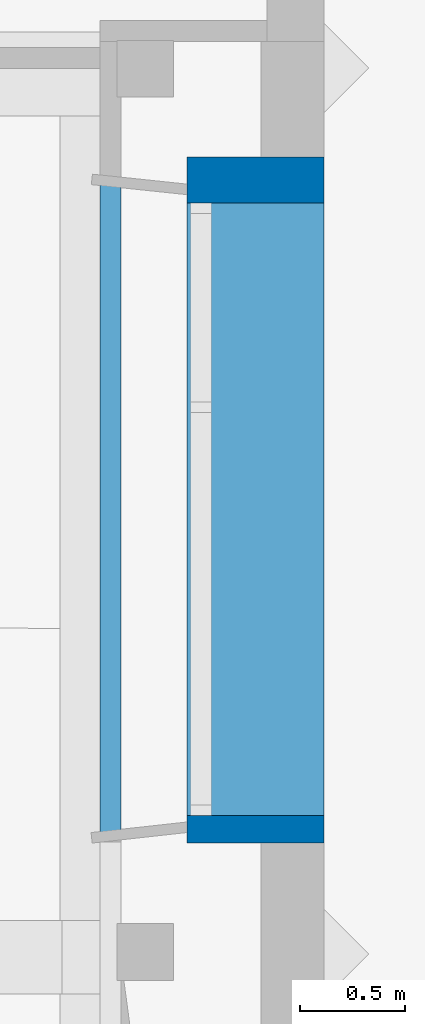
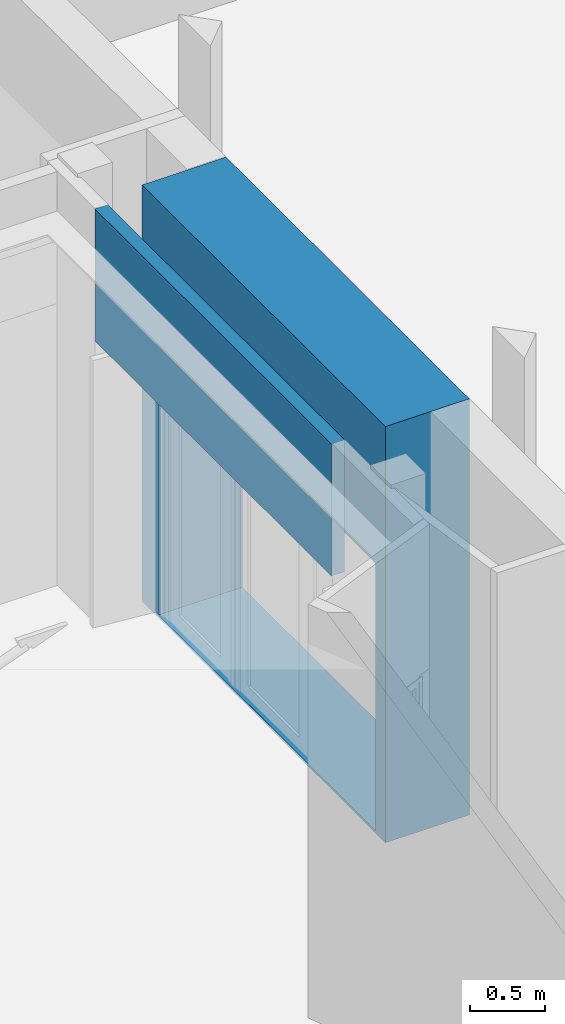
# One storey, part 37 of 65: 2 walls, 1 opening.
"""IFC4 building model written with IfcOpenShell, lengths in metres."""

import ifcopenshell
import ifcopenshell.guid

model = None  # the IFC model being written
_history = None  # IfcOwnerHistory: only IFC2X3 demands one
_inside = {}  # id of a spatial element -> (the spatial element, [elements in it])
_under = {}  # id of a project, library or spatial element -> (it, [spatial elements below it])
_declared = {}  # id of a project -> (the project, [libraries it declares])
_typed = {}  # id of a type object -> (the type object, [elements of that type])
_made_of = {}  # id of a material, layer set ... -> (it, [elements and type objects made of it])


def new_model(schema):
    """Start an empty IFC model of exactly this schema.

    Asked for "IFC4X3", IfcOpenShell would pick the latest addendum, in which some entities
    have other attributes; the version numbers below select the first issue.
    IFC2X3 requires an IfcOwnerHistory on every rooted entity: one is made here for all.
    """
    global model, _history
    if schema == "IFC4X3":
        model = ifcopenshell.file(schema_version=(4, 3, 0, 0))
    else:
        model = ifcopenshell.file(schema=schema)
    _inside.clear()
    _under.clear()
    _declared.clear()
    _typed.clear()
    _made_of.clear()
    _history = None
    if model.schema == "IFC2X3":
        org = make("IfcOrganization", Name="unknown")
        user = make(
            "IfcPersonAndOrganization",
            ThePerson=make("IfcPerson", FamilyName="unknown"),
            TheOrganization=org,
        )
        app = make(
            "IfcApplication",
            ApplicationDeveloper=org,
            Version="unknown",
            ApplicationFullName="unknown",
            ApplicationIdentifier="unknown",
        )
        _history = make(
            "IfcOwnerHistory",
            OwningUser=user,
            OwningApplication=app,
            ChangeAction="ADDED",
            CreationDate=0,
        )
    return model


def make(cls, **values):
    """One entity of the class cls with the attributes given. An attribute that is None is left unset."""
    return model.create_entity(
        cls, **{name: value for name, value in values.items() if value is not None}
    )


def entity(cls, *values):
    """Any entity or typed value of the class cls, its attributes in the order of the schema. None: left unset."""
    e = model.create_entity(cls)
    for i, value in enumerate(values):
        if value is not None:
            e[i] = value
    return e


def rooted(cls, **values):
    """An entity with a GlobalId (a new one), such as an element, a storey or a relation."""
    return make(cls, GlobalId=ifcopenshell.guid.new(), OwnerHistory=_history, **values)


def si_unit(unit_type, name, prefix=None):
    """IfcSIUnit, for example si_unit("LENGTHUNIT", "METRE", prefix="MILLI")."""
    return make("IfcSIUnit", UnitType=unit_type, Prefix=prefix, Name=name)


def converted_unit(unit_type, name, factor, base, dimensions=None, offset=None):
    """IfcConversionBasedUnit, such as the inch: factor (a typed value) times the base unit."""
    return make(
        "IfcConversionBasedUnit"
        if offset is None
        else "IfcConversionBasedUnitWithOffset",
        ConversionOffset=offset,
        Dimensions=None
        if dimensions is None
        else entity("IfcDimensionalExponents", *dimensions),
        UnitType=unit_type,
        Name=name,
        ConversionFactor=make(
            "IfcMeasureWithUnit", ValueComponent=factor, UnitComponent=base
        ),
    )


def derived_unit(unit_type, elements):
    """IfcDerivedUnit: a product of units, each with its exponent."""
    return make(
        "IfcDerivedUnit",
        Elements=[
            make("IfcDerivedUnitElement", Unit=unit, Exponent=power)
            for unit, power in elements
        ],
        UnitType=unit_type,
    )


def assignment(units):
    """IfcUnitAssignment: the units of a project."""
    return None if units is None else make("IfcUnitAssignment", Units=units)


def point(xyz):
    """IfcCartesianPoint."""
    return None if xyz is None else make("IfcCartesianPoint", Coordinates=xyz)


def direction(xyz):
    """IfcDirection."""
    return None if xyz is None else make("IfcDirection", DirectionRatios=xyz)


def frame(location, z_axis=None, x_axis=None):
    """IfcAxis2Placement3D, a coordinate frame: its origin and axes. An axis left out is left unset."""
    return make(
        "IfcAxis2Placement3D",
        Location=point(location),
        Axis=direction(z_axis),
        RefDirection=direction(x_axis),
    )


def origin():
    """The frame at (0, 0, 0) with its axes left unset."""
    return frame((0.0, 0.0, 0.0))


def place(relative_to, where):
    """IfcLocalPlacement: puts the frame where relative to a parent placement (None: the world)."""
    return make(
        "IfcLocalPlacement", PlacementRelTo=relative_to, RelativePlacement=where
    )


def context(
    kind, dimensions, precision=None, world=None, true_north=None, identifier=None
):
    """IfcGeometricRepresentationContext, for example the 3D "Model" context."""
    return make(
        "IfcGeometricRepresentationContext",
        ContextIdentifier=identifier,
        ContextType=kind,
        CoordinateSpaceDimension=dimensions,
        Precision=precision,
        WorldCoordinateSystem=world,
        TrueNorth=true_north,
    )


def subcontext(parent, identifier, kind, view, scale=None):
    """IfcGeometricRepresentationSubContext, for example "Body" below "Model"."""
    return make(
        "IfcGeometricRepresentationSubContext",
        ContextIdentifier=identifier,
        ContextType=kind,
        ParentContext=parent,
        TargetScale=scale,
        TargetView=view,
    )


def project(units=None, contexts=None):
    """IfcProject with its units and contexts."""
    return rooted(
        "IfcProject",
        Name="project",
        RepresentationContexts=contexts,
        UnitsInContext=assignment(units),
    )


def spatial(cls, under=None, at=None, **own):
    """A site, building, storey or space (cls), placed at a placement, below another one or the project."""
    s = rooted(cls, ObjectPlacement=at, **own)
    if under is not None:
        _under.setdefault(under.id(), (under, []))[1].append(s)
    return s


def point_list(points):
    """IfcCartesianPointList2D or 3D."""
    cls = (
        "IfcCartesianPointList2D" if len(points[0]) == 2 else "IfcCartesianPointList3D"
    )
    return make(cls, CoordList=points)


def indexed_curve(points, segments=None, self_intersect=None):
    """IfcIndexedPolyCurve: lines and arcs through numbered points (the first is 1)."""
    return make(
        "IfcIndexedPolyCurve",
        Points=point_list(points),
        Segments=segments,
        SelfIntersect=self_intersect,
    )


def outline(outer, holes=None, kind="AREA"):
    """IfcArbitraryClosedProfileDef: a profile drawn as a closed curve; with holes, ...WithVoids."""
    if holes is None:
        return make("IfcArbitraryClosedProfileDef", ProfileType=kind, OuterCurve=outer)
    return make(
        "IfcArbitraryProfileDefWithVoids",
        ProfileType=kind,
        OuterCurve=outer,
        InnerCurves=holes,
    )


def extrude(swept, where, along, depth):
    """IfcExtrudedAreaSolid: the profile swept, set in the frame where, extruded along a direction by depth."""
    return make(
        "IfcExtrudedAreaSolid",
        SweptArea=swept,
        Position=where,
        ExtrudedDirection=direction(along),
        Depth=depth,
    )


def polygons(points, faces, closed=None, point_numbers=None):
    """IfcPolygonalFaceSet: a face is its outer loop, then its inner loops; points numbered from 1."""
    made = []
    for loops in faces:
        if len(loops) == 1:
            made.append(make("IfcIndexedPolygonalFace", CoordIndex=loops[0]))
        else:
            made.append(
                make(
                    "IfcIndexedPolygonalFaceWithVoids",
                    CoordIndex=loops[0],
                    InnerCoordIndices=loops[1:],
                )
            )
    return make(
        "IfcPolygonalFaceSet",
        Coordinates=point_list(points),
        Closed=closed,
        Faces=made,
        PnIndex=point_numbers,
    )


def shape(context_of_items, identifier, shape_type, items):
    """IfcShapeRepresentation: the items that make up one representation, for example the "Body"."""
    return make(
        "IfcShapeRepresentation",
        ContextOfItems=context_of_items,
        RepresentationIdentifier=identifier,
        RepresentationType=shape_type,
        Items=items,
    )


def material(Name=None, Category=None):
    """IfcMaterial."""
    return make("IfcMaterial", Name=Name, Category=Category)


def layer(
    of_material, thickness, ventilated=None, Name=None, Category=None, Priority=None
):
    """IfcMaterialLayer: one layer of a wall or slab, of a material (None: an air gap)."""
    return make(
        "IfcMaterialLayer",
        Material=of_material,
        LayerThickness=thickness,
        IsVentilated=ventilated,
        Name=Name,
        Category=Category,
        Priority=Priority,
    )


def layer_set(layers, Name=None):
    """IfcMaterialLayerSet."""
    return make("IfcMaterialLayerSet", MaterialLayers=layers, LayerSetName=Name)


def made_of(thing, what):
    """Note that an element or type object is made of a material, layer set ...; save() writes the relation."""
    if what is not None:
        _made_of.setdefault(what.id(), (what, []))[1].append(thing)
    return thing


def type_object(cls, material=None, **own):
    """A type object (cls), such as IfcWallType, which elements share."""
    return made_of(rooted(cls, **own), material)


def element(
    cls,
    number,
    at=None,
    inside=None,
    cuts=None,
    type_object=None,
    material=None,
    context=None,
    identifier="Body",
    shape_type=None,
    held_by="IfcProductDefinitionShape",
    body=None,
    shapes=None,
    **own,
):
    """One element of the class cls, such as IfcWall. Its Tag is "e" and its number.

    at: its placement. inside: the storey or other place that contains it. cuts: it is an
    opening in that element (IfcRelVoidsElement). A single representation is given by context,
    identifier, shape_type and body (its items); several are given by shapes. held_by: the class
    of the entity that holds the representations. save() writes the other relations.
    """
    e = rooted(cls, Tag="e%d" % number, ObjectPlacement=at, **own)
    if body is not None:
        shapes = [shape(context, identifier, shape_type, body)]
    if shapes is not None:
        e.Representation = make(held_by, Representations=shapes)
    if inside is not None:
        _inside.setdefault(inside.id(), (inside, []))[1].append(e)
    if cuts is not None:
        rooted(
            "IfcRelVoidsElement", RelatingBuildingElement=cuts, RelatedOpeningElement=e
        )
    if type_object is not None:
        _typed.setdefault(type_object.id(), (type_object, []))[1].append(e)
    return made_of(e, material)


def aggregate(whole, parts):
    """IfcRelAggregates: a whole, such as a stair, and the parts it consists of."""
    return rooted("IfcRelAggregates", RelatingObject=whole, RelatedObjects=parts)


def save(model, path):
    """Write the relations noted so far, then the file.

    IfcRelAggregates (storeys below a building ...), IfcRelContainedInSpatialStructure (elements
    in a storey), IfcRelDefinesByType, IfcRelAssociatesMaterial and IfcRelDeclares: one each for
    every whole, place, type object, material and project.
    """
    for whole, parts in _under.values():
        aggregate(whole, parts)
    for where, things in _inside.values():
        rooted(
            "IfcRelContainedInSpatialStructure",
            RelatedElements=things,
            RelatingStructure=where,
        )
    for kind, things in _typed.values():
        rooted("IfcRelDefinesByType", RelatedObjects=things, RelatingType=kind)
    for what, things in _made_of.values():
        rooted("IfcRelAssociatesMaterial", RelatedObjects=things, RelatingMaterial=what)
    for by, libraries in _declared.values():
        rooted("IfcRelDeclares", RelatingContext=by, RelatedDefinitions=libraries)
    model.write(path)


model = new_model("IFC4")

# Units and contexts
model_context = context("Model", 3, precision=1e-05, world=origin(), true_north=direction((6.12303176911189e-17, 1.0)))
body_context = subcontext(model_context, "Body", "Model", "MODEL_VIEW")
ifc_project = project(units=[si_unit("LENGTHUNIT", "METRE"), si_unit("AREAUNIT", "SQUARE_METRE"), si_unit("VOLUMEUNIT", "CUBIC_METRE"), converted_unit("PLANEANGLEUNIT", "DEGREE", entity("IfcRatioMeasure", 0.0174532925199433), si_unit("PLANEANGLEUNIT", "RADIAN"), dimensions=[0, 0, 0, 0, 0, 0, 0]), si_unit("MASSUNIT", "GRAM", prefix="KILO"), derived_unit("MASSDENSITYUNIT", [(si_unit("MASSUNIT", "GRAM", prefix="KILO"), 1), (si_unit("LENGTHUNIT", "METRE"), -3)]), derived_unit("MOMENTOFINERTIAUNIT", [(si_unit("LENGTHUNIT", "METRE"), 4)]), si_unit("TIMEUNIT", "SECOND"), si_unit("FREQUENCYUNIT", "HERTZ"), si_unit("THERMODYNAMICTEMPERATUREUNIT", "DEGREE_CELSIUS"), derived_unit("THERMALTRANSMITTANCEUNIT", [(si_unit("MASSUNIT", "GRAM", prefix="KILO"), 1), (si_unit("THERMODYNAMICTEMPERATUREUNIT", "KELVIN"), -1), (si_unit("TIMEUNIT", "SECOND"), -3)]), derived_unit("VOLUMETRICFLOWRATEUNIT", [(si_unit("LENGTHUNIT", "METRE"), 3), (si_unit("TIMEUNIT", "SECOND"), -1)]), si_unit("ELECTRICCURRENTUNIT", "AMPERE"), si_unit("ELECTRICVOLTAGEUNIT", "VOLT"), si_unit("POWERUNIT", "WATT"), si_unit("FORCEUNIT", "NEWTON", prefix="KILO"), si_unit("ILLUMINANCEUNIT", "LUX"), si_unit("LUMINOUSFLUXUNIT", "LUMEN"), si_unit("LUMINOUSINTENSITYUNIT", "CANDELA"), derived_unit("USERDEFINED", [(si_unit("MASSUNIT", "GRAM", prefix="KILO"), -1), (si_unit("LENGTHUNIT", "METRE"), -2), (si_unit("TIMEUNIT", "SECOND"), 3), (si_unit("LUMINOUSFLUXUNIT", "LUMEN"), 1)]), derived_unit("LINEARVELOCITYUNIT", [(si_unit("LENGTHUNIT", "METRE"), 1), (si_unit("TIMEUNIT", "SECOND"), -1)]), si_unit("PRESSUREUNIT", "PASCAL"), derived_unit("USERDEFINED", [(si_unit("LENGTHUNIT", "METRE"), -2), (si_unit("MASSUNIT", "GRAM", prefix="KILO"), 1), (si_unit("TIMEUNIT", "SECOND"), -2)]), derived_unit("LINEARFORCEUNIT", [(si_unit("MASSUNIT", "GRAM", prefix="KILO"), 1), (si_unit("LENGTHUNIT", "METRE"), 1), (si_unit("TIMEUNIT", "SECOND"), -2), (si_unit("LENGTHUNIT", "METRE"), -1)]), derived_unit("PLANARFORCEUNIT", [(si_unit("MASSUNIT", "GRAM", prefix="KILO"), 1), (si_unit("LENGTHUNIT", "METRE"), 1), (si_unit("TIMEUNIT", "SECOND"), -2), (si_unit("LENGTHUNIT", "METRE"), -2)])], contexts=[model_context])

# Site, building, storey
site_placement = place(None, origin())
site = spatial("IfcSite", under=ifc_project, at=site_placement, Name="Default", CompositionType="ELEMENT")
building_placement = place(site_placement, origin())
building = spatial("IfcBuilding", under=site, at=building_placement, Name="HOTEL CONSULAIRE BOULOGNE SUR MER", CompositionType="ELEMENT")
storey_placement = place(building_placement, origin())
storey = spatial("IfcBuildingStorey", under=building, at=storey_placement, Name="Niveau 0", CompositionType="ELEMENT", Elevation=1.31981936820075e-13)

# Wall, opening
ifc_material = material(Name="Mur par défaut", Category="Divers")
ifc_layer_1 = layer(ifc_material, 0.65, Name="Mur par défaut", Category="Divers")
ifc_layer_set_1 = layer_set([ifc_layer_1], Name="Mur de base:Générique - Int. 650")
wall_type_1 = type_object("IfcWallType", Name="Mur de base:Générique - Int. 650", PredefinedType="NOTDEFINED", material=ifc_layer_set_1)
wall_1_placement = place(storey_placement, frame((12.0014778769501, -19.2968526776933, -0.0200000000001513), z_axis=(0.0, 0.0, 1.0), x_axis=(0.0, 1.0, 0.0)))
wall_1 = element("IfcWall", 1, at=wall_1_placement, inside=storey, type_object=wall_type_1, material=ifc_layer_set_1, Name="Mur de base:Générique - Int. 650", ObjectType="Mur de base:Générique - Int. 650", PredefinedType="NOTDEFINED", context=body_context, shape_type="Tessellation", body=[
    polygons([(2.16573425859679e-15, -0.325000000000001, -2.15727435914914e-16), (3.26042489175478, -0.325000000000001, -2.15727435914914e-16), (3.26042489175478, -0.325000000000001, 3.40652697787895), (2.16573425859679e-15, -0.325000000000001, 3.40652697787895), (3.04236307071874, -0.325000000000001, 2.20791504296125), (3.04236307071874, -0.325000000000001, 0.0199999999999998), (0.129501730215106, -0.325, 0.0199999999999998), (0.129501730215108, -0.325, 2.20791504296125), (3.26042489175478, 0.324999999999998, -2.15727435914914e-16), (3.13211471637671, 0.324999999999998, -2.15727435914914e-16), (3.08183930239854, 0.324999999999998, -2.15727435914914e-16), (0.0994935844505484, 0.324999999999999, -2.15727435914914e-16), (0.0491873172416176, 0.324999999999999, -2.15727435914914e-16), (0.0, 0.324999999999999, 0.0), (0.0, 0.324999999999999, 3.40652697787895), (3.26042489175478, 0.324999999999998, 3.40652697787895), (3.04236307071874, 0.324999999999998, 0.0199999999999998), (3.04236307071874, 0.324999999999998, 2.20791504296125), (0.129501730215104, 0.324999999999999, 2.20791504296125), (0.129501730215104, 0.324999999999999, 0.0199999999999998), (0.0, -0.0250000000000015, -2.15727435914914e-16), (3.26042489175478, -0.0250000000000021, -2.15727435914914e-16), (0.0, -0.0250000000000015, 3.40652697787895)], [[[1, 2, 3, 4], [8, 5, 6, 7]], [[10, 11, 12, 13, 14, 15, 16, 9], [17, 18, 19, 20]], [[11, 10, 9, 22, 2, 1, 21, 14, 13, 12]], [[18, 5, 8, 19]], [[3, 2, 22, 9, 16]], [[19, 8, 7, 20]], [[4, 3, 16, 15, 23]], [[17, 20, 7, 6]], [[21, 1, 4, 23, 15, 14]], [[18, 17, 6, 5]]], closed=True),
])
opening_placement = place(wall_1_placement, frame((0.129501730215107, 0.477399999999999, 0.0199999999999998)))
element("IfcOpeningElement", 2, at=opening_placement, cuts=wall_1, Name="Mur de base:Générique - Int. 650", ObjectType="Opening", PredefinedType="OPENING", context=body_context, shape_type="SweptSolid", body=[
    extrude(outline(indexed_curve([(-1.45643067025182, -1.09395752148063), (1.45643067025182, -1.09395752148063), (1.45643067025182, 1.09395752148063), (-1.45643067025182, 1.09395752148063), (-1.45643067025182, -1.09395752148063)], self_intersect=False)), frame((1.45643067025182, -0.954800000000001, 1.09395752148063), z_axis=(0.0, 1.0, 0.0), x_axis=(-1.0, 0.0, 0.0)), (0.0, 0.0, 1.0), 0.9548),
])

# Wall
ifc_layer_2 = layer(ifc_material, 0.1, Name="Mur par défaut", Category="Divers")
ifc_layer_set_2 = layer_set([ifc_layer_2], Name="Mur de base:Int. Plâtre 100 mm")
wall_type_2 = type_object("IfcWallType", Name="Mur de base:Int. Plâtre 100 mm", PredefinedType="NOTDEFINED", material=ifc_layer_set_2)
wall_2_placement = place(storey_placement, frame((11.3120652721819, -19.2936039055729, 2.30615028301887), z_axis=(0.0, 0.0, 1.0), x_axis=(0.0, 1.0, 0.0)))
element("IfcWall", 3, at=wall_2_placement, inside=storey, type_object=wall_type_2, material=ifc_layer_set_2, Name="Mur de base:Int. Plâtre 100 mm", ObjectType="Mur de base:Int. Plâtre 100 mm", PredefinedType="NOTDEFINED", context=body_context, shape_type="Tessellation", body=[
    polygons([(0.0, -0.0499999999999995, -2.70716782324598e-16), (3.17242246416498, -0.0499999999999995, -2.70716782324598e-16), (3.17242246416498, -0.0499999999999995, 1.08037669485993), (0.0, -0.0499999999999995, 1.08037669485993), (3.17242246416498, 0.0499999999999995, -2.70716782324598e-16), (0.0, 0.0499999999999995, -2.70716782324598e-16), (0.0, 0.0499999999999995, 1.08037669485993), (3.17242246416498, 0.0499999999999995, 1.08037669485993)], [[[4, 1, 2, 3]], [[8, 5, 6, 7]], [[2, 1, 6, 5]], [[3, 2, 5, 8]], [[1, 4, 7, 6]], [[4, 3, 8, 7]]], closed=True),
])

save(model, "model.ifc")
